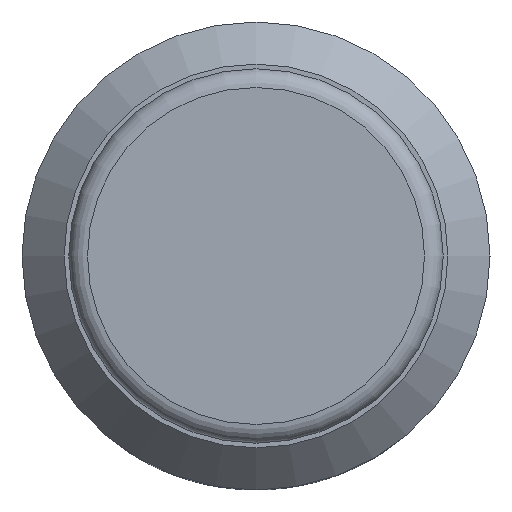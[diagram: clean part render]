
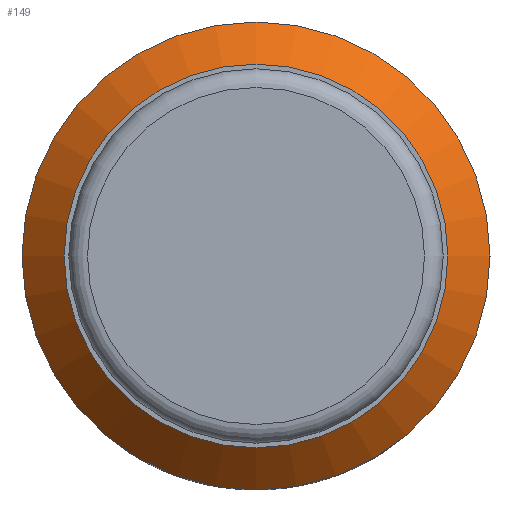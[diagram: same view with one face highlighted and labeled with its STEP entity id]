
A CAD part, left-side view. The second image highlights one B-rep face of the part: STEP entity #149.
In plain terms, the highlighted conical face has half-angle 45 degrees and reference radius 2.05 mm.
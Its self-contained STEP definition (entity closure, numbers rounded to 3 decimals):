
#149 = ADVANCED_FACE( '', ( #186, #187 ), #188, .T. );
#186 = FACE_OUTER_BOUND( '', #231, .T. );
#187 = FACE_BOUND( '', #232, .T. );
#188 = CONICAL_SURFACE( '', #233, 2.05, 0.785 );
#231 = EDGE_LOOP( '', ( #297 ) );
#232 = EDGE_LOOP( '', ( #298 ) );
#233 = AXIS2_PLACEMENT_3D( '', #299, #300, #301 );
#297 = ORIENTED_EDGE( '', *, *, #335, .T. );
#298 = ORIENTED_EDGE( '', *, *, #336, .F. );
#299 = CARTESIAN_POINT( '', ( 0., 0., 0. ) );
#300 = DIRECTION( '', ( 1., 0., 0. ) );
#301 = DIRECTION( '', ( 0., 0., -1. ) );
#335 = EDGE_CURVE( '', #367, #367, #368, .T. );
#336 = EDGE_CURVE( '', #369, #369, #370, .T. );
#367 = VERTEX_POINT( '', #446 );
#368 = CIRCLE( '', #447, 2.5 );
#369 = VERTEX_POINT( '', #448 );
#370 = CIRCLE( '', #449, 2.05 );
#446 = CARTESIAN_POINT( '', ( 0.45, 0., 2.5 ) );
#447 = AXIS2_PLACEMENT_3D( '', #493, #494, #495 );
#448 = CARTESIAN_POINT( '', ( 0., 0., 2.05 ) );
#449 = AXIS2_PLACEMENT_3D( '', #496, #497, #498 );
#493 = CARTESIAN_POINT( '', ( 0.45, 0., 0. ) );
#494 = DIRECTION( '', ( -1., 0., 0. ) );
#495 = DIRECTION( '', ( 0., 0., 1. ) );
#496 = CARTESIAN_POINT( '', ( 0., 0., 0. ) );
#497 = DIRECTION( '', ( -1., 0., 0. ) );
#498 = DIRECTION( '', ( 0., 0., 1. ) );
